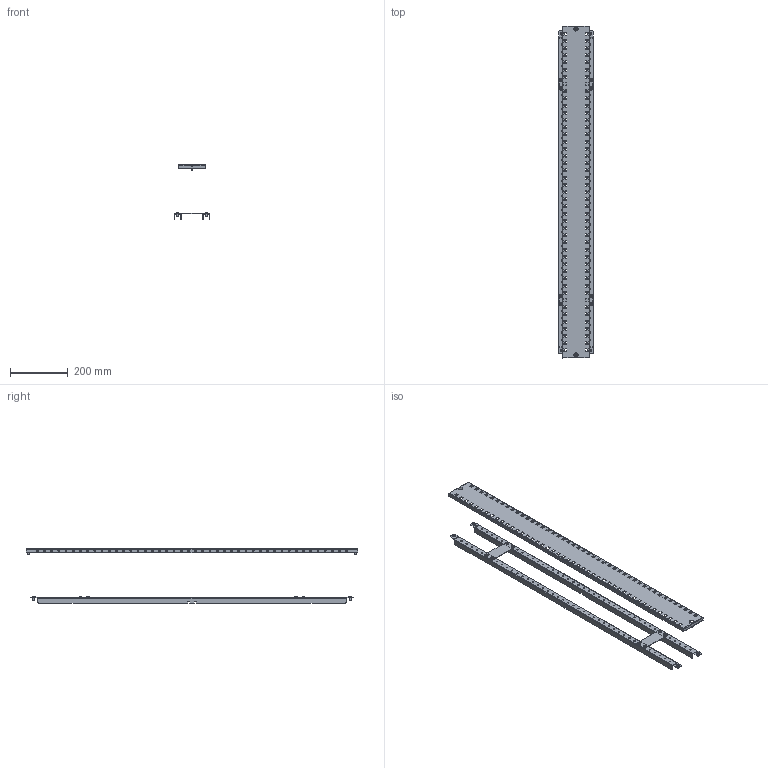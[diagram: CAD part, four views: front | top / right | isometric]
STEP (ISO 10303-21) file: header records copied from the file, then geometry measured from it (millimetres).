
FILE_DESCRIPTION (( 'STEP AP203' ), '1' );
FILE_NAME ('R6DK124040 ãë.250.step', '2025-07-11T08:20:38', ( '' ), ( '' ), 'SwSTEP 2.0', 'SolidWorks 2022', '' );
FILE_SCHEMA (( 'CONFIG_CONTROL_DESIGN' ));
Length unit declared in the file: millimetre
Products named in the file (7): RB.3325.00.00.0_-03; M5x12 DIN 7500 C Torx Zinc_stright; RB.3015.00.00.0_-01; RB.3324.00.00.0_-01; 6 DIN 6798 A Zinc; R6DK124040 гл.250; M6x10 DIN 912 HX cl.8,8 Zinc_straight
Assembly tree (25 placements, depth 2):
  R6DK124040 гл.250
    RB.3325.00.00.0_-03
    RB.3324.00.00.0_-01  x2
    RB.3015.00.00.0_-01  x2
    M5x12 DIN 7500 C Torx Zinc_stright  x16
    6 DIN 6798 A Zinc  x2
    M6x10 DIN 912 HX cl.8,8 Zinc_straight  x2
Bounding box: 125 x 1153.2 x 190.13 mm (x, y, z)
Volume: 412089.6 mm3; surface area: 569124.3 mm2
Topology: 25 solids, 25 shells, 1212 faces, 3216 edges, 2020 vertices
Faces by surface type: plane 760, cylinder 300, bspline 64, torus 36, cone 36, sphere 16
Full cylindrical faces by diameter (mm): 4.2 x84, 5 x16, 6 x98, 6.4 x2, 7 x2, 9.5 x16, 10 x2, 11 x2
Entity records: 26119 total; most frequent: CARTESIAN_POINT 4907, ORIENTED_EDGE 3914, DIRECTION 3846, EDGE_CURVE 1957, VECTOR 1478, LINE 1478, EDGE_LOOP 1368, VERTEX_POINT 1361
